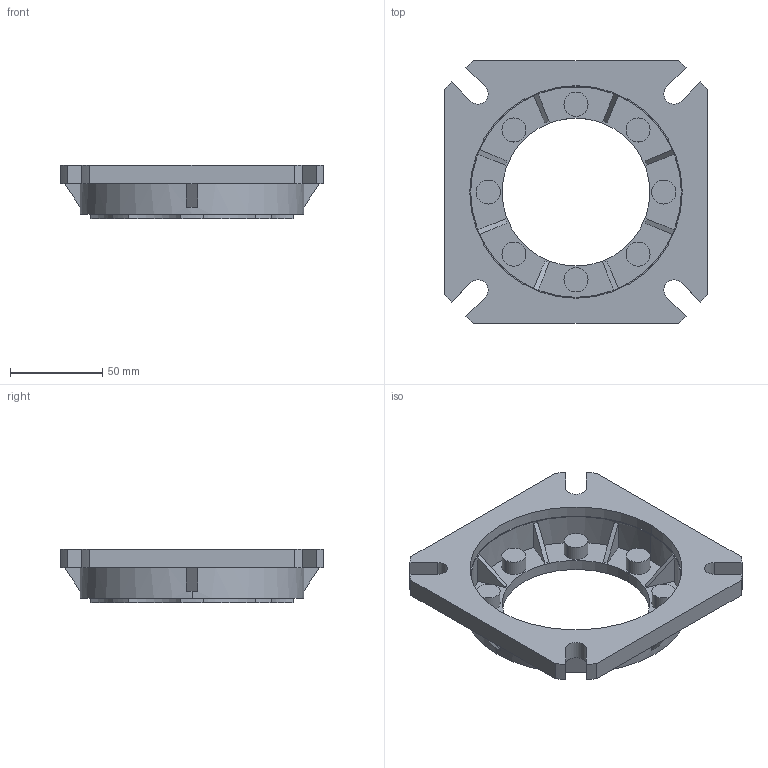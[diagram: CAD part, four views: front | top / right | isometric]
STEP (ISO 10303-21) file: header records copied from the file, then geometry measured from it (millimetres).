
FILE_DESCRIPTION(/* description */ (''),/* implementation_level */ '2;1');
FILE_NAME(/* name */ '1_FLANGIA (CAMPANA) LATERALE FA NMRV-P063',/* time_stamp */ '2025-10-09T14:50:38+02:00',/* author */ (''),/* organization */ (''),/* preprocessor_version */ 'ST-DEVELOPER v19.2',/* originating_system */ 'Rhino 8.23',/* authorisation */ '');
FILE_SCHEMA (('CONFIG_CONTROL_DESIGN'));
Length unit declared in the file: millimetre
Products named in the file (2): Document; FU 63FA-p
Bounding box: 142 x 142 x 29 mm (x, y, z)
Volume: 145584.9 mm3; surface area: 56131.8 mm2
Topology: 1 solids, 1 shells, 122 faces, 318 edges, 210 vertices
Faces by surface type: plane 62, cylinder 52, bspline 8
Entity records: 5209 total; most frequent: CARTESIAN_POINT 1278, ORIENTED_EDGE 636, DIRECTION 398, EDGE_CURVE 318, AXIS2_PLACEMENT_3D 256, VERTEX_POINT 210, B_SPLINE_CURVE_WITH_KNOTS 180, TRIMMED_CURVE 138
